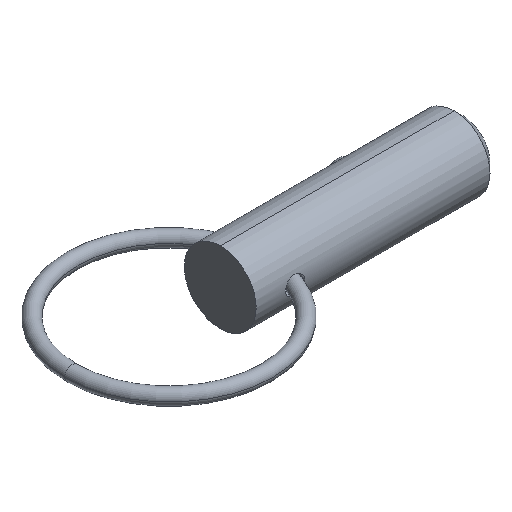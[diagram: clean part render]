
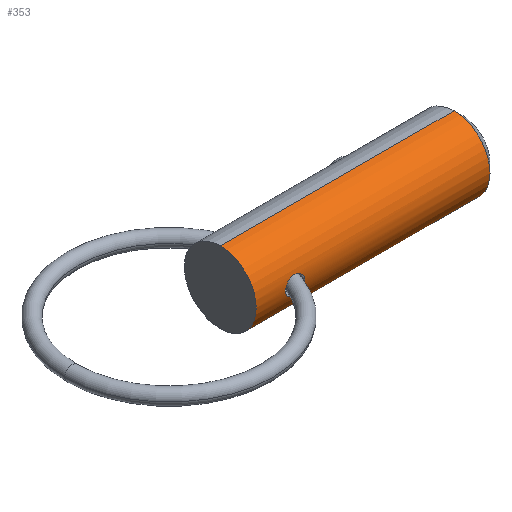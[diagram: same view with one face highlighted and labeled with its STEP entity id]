
A CAD part, isometric view. The second image highlights one B-rep face of the part: STEP entity #353.
In plain terms, the highlighted cylindrical face has radius 4.7 mm (diameter 9.4 mm), a partial arc.
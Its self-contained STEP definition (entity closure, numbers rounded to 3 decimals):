
#9 = LINE ( 'NONE', #423, #355 ) ;
#30 = VERTEX_POINT ( 'NONE', #646 ) ;
#31 = CARTESIAN_POINT ( 'NONE',  ( 5.727, -4.582, -1.05 ) ) ;
#41 = CARTESIAN_POINT ( 'NONE',  ( 5.725, -4.583, 1.042 ) ) ;
#47 = DIRECTION ( 'NONE',  ( 1., 0., 0. ) ) ;
#64 = CARTESIAN_POINT ( 'NONE',  ( 0., 0., 4.7 ) ) ;
#71 = CYLINDRICAL_SURFACE ( 'NONE', #652, 4.7 ) ;
#77 = ORIENTED_EDGE ( 'NONE', *, *, #81, .T. ) ;
#81 = EDGE_CURVE ( 'NONE', #748, #461, #186, .T. ) ;
#91 = CARTESIAN_POINT ( 'NONE',  ( 6.094, -4.642, -0.742 ) ) ;
#95 = CARTESIAN_POINT ( 'NONE',  ( 6.35, -4.7, -0.161 ) ) ;
#105 = CARTESIAN_POINT ( 'NONE',  ( 4.788, -4.561, 1.135 ) ) ;
#108 = CIRCLE ( 'NONE', #182, 4.7 ) ;
#109 = ORIENTED_EDGE ( 'NONE', *, *, #135, .T. ) ;
#123 = CARTESIAN_POINT ( 'NONE',  ( 4.005, -4.663, 0.605 ) ) ;
#124 = EDGE_LOOP ( 'NONE', ( #332, #109, #708, #253 ) ) ;
#135 = EDGE_CURVE ( 'NONE', #436, #526, #367, .T. ) ;
#136 = VECTOR ( 'NONE', #467, 1000. ) ;
#173 = CARTESIAN_POINT ( 'NONE',  ( 3.818, -4.7, 0. ) ) ;
#175 = CARTESIAN_POINT ( 'NONE',  ( 3.859, -4.691, 0.32 ) ) ;
#182 = AXIS2_PLACEMENT_3D ( 'NONE', #657, #47, #257 ) ;
#186 = B_SPLINE_CURVE_WITH_KNOTS ( 'NONE', 3,
 ( #703, #95, #663, #770, #585, #91, #379, #325, #31, #597, #444, #844, #857, #304, #579, #851, #780, #515, #787, #513, #709, #173 ),
 .UNSPECIFIED., .F., .F.,
 ( 4, 2, 2, 2, 2, 2, 2, 2, 2, 2, 4 ),
 ( 0.005, 0.005, 0.005, 0.006, 0.006, 0.007, 0.007, 0.008, 0.008, 0.008, 0.009 ),
 .UNSPECIFIED. ) ;
#196 = VERTEX_POINT ( 'NONE', #574 ) ;
#237 = CARTESIAN_POINT ( 'NONE',  ( 6.317, -4.691, 0.321 ) ) ;
#249 = DIRECTION ( 'NONE',  ( 1., 0., 0. ) ) ;
#253 = ORIENTED_EDGE ( 'NONE', *, *, #671, .F. ) ;
#254 = CARTESIAN_POINT ( 'NONE',  ( 0., 0., 0. ) ) ;
#257 = DIRECTION ( 'NONE',  ( 0., 0., -1. ) ) ;
#262 = CARTESIAN_POINT ( 'NONE',  ( 4.352, -4.607, 0.938 ) ) ;
#275 = DIRECTION ( 'NONE',  ( 1., 0., 0. ) ) ;
#294 = DIRECTION ( 'NONE',  ( 0., 0., -1. ) ) ;
#304 = CARTESIAN_POINT ( 'NONE',  ( 4.487, -4.589, -1.018 ) ) ;
#309 = LINE ( 'NONE', #670, #136 ) ;
#315 = EDGE_CURVE ( 'NONE', #461, #748, #696, .T. ) ;
#320 = DIRECTION ( 'NONE',  ( 0., 0., -1. ) ) ;
#325 = CARTESIAN_POINT ( 'NONE',  ( 5.867, -4.601, -0.966 ) ) ;
#332 = ORIENTED_EDGE ( 'NONE', *, *, #807, .F. ) ;
#333 = CARTESIAN_POINT ( 'NONE',  ( 5.654, -4.575, 1.076 ) ) ;
#338 = CARTESIAN_POINT ( 'NONE',  ( 6.35, -4.7, 0.161 ) ) ;
#353 = ADVANCED_FACE ( 'NONE', ( #618, #685 ), #71, .T. ) ;
#355 = VECTOR ( 'NONE', #275, 1000. ) ;
#367 = CIRCLE ( 'NONE', #856, 4.7 ) ;
#379 = CARTESIAN_POINT ( 'NONE',  ( 6.041, -4.631, -0.803 ) ) ;
#390 = CARTESIAN_POINT ( 'NONE',  ( 5.861, -4.601, 0.96 ) ) ;
#400 = EDGE_LOOP ( 'NONE', ( #521, #77 ) ) ;
#406 = CARTESIAN_POINT ( 'NONE',  ( 4.947, -4.552, 1.169 ) ) ;
#423 = CARTESIAN_POINT ( 'NONE',  ( 0., 0., 4.7 ) ) ;
#436 = VERTEX_POINT ( 'NONE', #64 ) ;
#444 = CARTESIAN_POINT ( 'NONE',  ( 5.265, -4.55, -1.18 ) ) ;
#461 = VERTEX_POINT ( 'NONE', #842 ) ;
#467 = DIRECTION ( 'NONE',  ( 1., 0., 0. ) ) ;
#476 = CARTESIAN_POINT ( 'NONE',  ( 5.926, -4.611, 0.911 ) ) ;
#513 = CARTESIAN_POINT ( 'NONE',  ( 3.829, -4.698, -0.161 ) ) ;
#515 = CARTESIAN_POINT ( 'NONE',  ( 3.895, -4.684, -0.39 ) ) ;
#519 = CARTESIAN_POINT ( 'NONE',  ( 4.108, -4.644, 0.73 ) ) ;
#521 = ORIENTED_EDGE ( 'NONE', *, *, #315, .T. ) ;
#524 = CARTESIAN_POINT ( 'NONE',  ( 5.187, -4.55, 1.177 ) ) ;
#526 = VERTEX_POINT ( 'NONE', #775 ) ;
#561 = DIRECTION ( 'NONE',  ( 1., 0., 0. ) ) ;
#574 = CARTESIAN_POINT ( 'NONE',  ( 30.575, 0., -4.7 ) ) ;
#579 = CARTESIAN_POINT ( 'NONE',  ( 4.349, -4.607, -0.937 ) ) ;
#582 = CARTESIAN_POINT ( 'NONE',  ( 4.491, -4.588, 1.02 ) ) ;
#585 = CARTESIAN_POINT ( 'NONE',  ( 6.185, -4.66, -0.612 ) ) ;
#597 = CARTESIAN_POINT ( 'NONE',  ( 5.427, -4.556, -1.156 ) ) ;
#601 = CARTESIAN_POINT ( 'NONE',  ( 3.818, -4.7, 0. ) ) ;
#605 = CARTESIAN_POINT ( 'NONE',  ( 6.1, -4.641, 0.749 ) ) ;
#618 = FACE_OUTER_BOUND ( 'NONE', #124, .T. ) ;
#629 = CARTESIAN_POINT ( 'NONE',  ( 0., 0., 0. ) ) ;
#641 = EDGE_CURVE ( 'NONE', #526, #196, #309, .T. ) ;
#646 = CARTESIAN_POINT ( 'NONE',  ( 30.575, 0., 4.7 ) ) ;
#652 = AXIS2_PLACEMENT_3D ( 'NONE', #629, #561, #294 ) ;
#656 = CARTESIAN_POINT ( 'NONE',  ( 6.193, -4.662, 0.614 ) ) ;
#657 = CARTESIAN_POINT ( 'NONE',  ( 30.575, 0., 0. ) ) ;
#663 = CARTESIAN_POINT ( 'NONE',  ( 6.318, -4.691, -0.32 ) ) ;
#668 = CARTESIAN_POINT ( 'NONE',  ( 5.266, -4.551, 1.173 ) ) ;
#670 = CARTESIAN_POINT ( 'NONE',  ( 0., 0., -4.7 ) ) ;
#671 = EDGE_CURVE ( 'NONE', #30, #196, #108, .T. ) ;
#685 = FACE_BOUND ( 'NONE', #400, .T. ) ;
#696 = B_SPLINE_CURVE_WITH_KNOTS ( 'NONE', 3,
 ( #601, #782, #175, #123, #519, #262, #582, #105, #406, #524, #668, #777, #802, #333, #41, #390, #476, #605, #656, #237, #338, #809 ),
 .UNSPECIFIED., .F., .F.,
 ( 4, 2, 2, 2, 2, 2, 2, 2, 2, 2, 4 ),
 ( 0.001, 0.001, 0.002, 0.002, 0.003, 0.003, 0.003, 0.004, 0.004, 0.004, 0.005 ),
 .UNSPECIFIED. ) ;
#703 = CARTESIAN_POINT ( 'NONE',  ( 6.35, -4.7, 0. ) ) ;
#708 = ORIENTED_EDGE ( 'NONE', *, *, #641, .T. ) ;
#709 = CARTESIAN_POINT ( 'NONE',  ( 3.818, -4.7, -0.08 ) ) ;
#748 = VERTEX_POINT ( 'NONE', #817 ) ;
#770 = CARTESIAN_POINT ( 'NONE',  ( 6.223, -4.669, -0.542 ) ) ;
#775 = CARTESIAN_POINT ( 'NONE',  ( 0., 0., -4.7 ) ) ;
#777 = CARTESIAN_POINT ( 'NONE',  ( 5.424, -4.557, 1.149 ) ) ;
#780 = CARTESIAN_POINT ( 'NONE',  ( 4.005, -4.663, -0.605 ) ) ;
#782 = CARTESIAN_POINT ( 'NONE',  ( 3.818, -4.7, 0.16 ) ) ;
#787 = CARTESIAN_POINT ( 'NONE',  ( 3.867, -4.69, -0.315 ) ) ;
#802 = CARTESIAN_POINT ( 'NONE',  ( 5.503, -4.562, 1.13 ) ) ;
#807 = EDGE_CURVE ( 'NONE', #436, #30, #9, .T. ) ;
#809 = CARTESIAN_POINT ( 'NONE',  ( 6.35, -4.7, 0. ) ) ;
#817 = CARTESIAN_POINT ( 'NONE',  ( 6.35, -4.7, 0. ) ) ;
#842 = CARTESIAN_POINT ( 'NONE',  ( 3.818, -4.7, 0. ) ) ;
#844 = CARTESIAN_POINT ( 'NONE',  ( 4.945, -4.552, -1.169 ) ) ;
#851 = CARTESIAN_POINT ( 'NONE',  ( 4.107, -4.644, -0.729 ) ) ;
#856 = AXIS2_PLACEMENT_3D ( 'NONE', #254, #249, #320 ) ;
#857 = CARTESIAN_POINT ( 'NONE',  ( 4.785, -4.561, -1.135 ) ) ;
